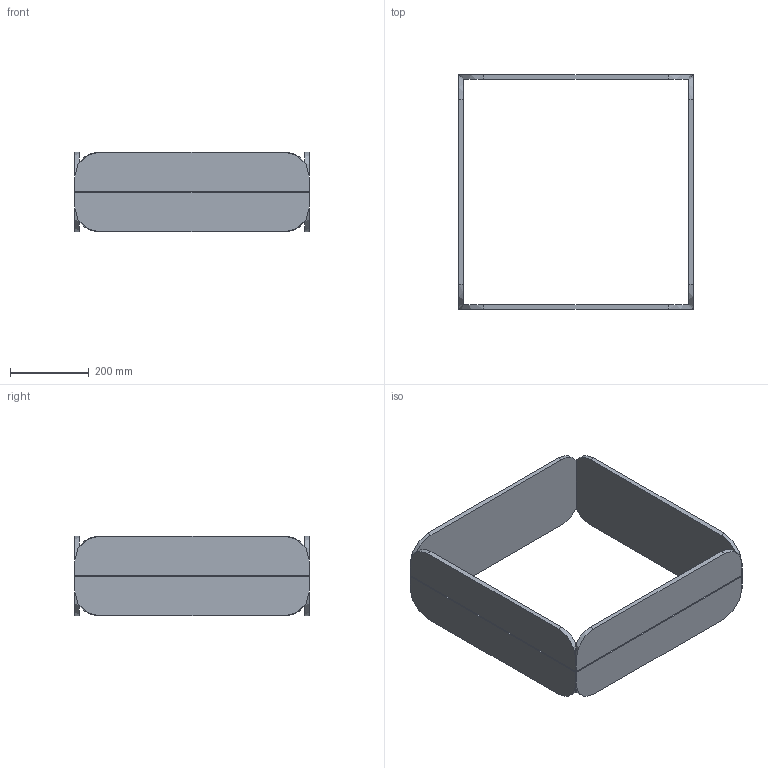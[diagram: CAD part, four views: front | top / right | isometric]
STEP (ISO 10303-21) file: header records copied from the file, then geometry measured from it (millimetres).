
FILE_DESCRIPTION(/* description */ (''),/* implementation_level */ '2;1');
FILE_NAME(/* name */ 'Profile_7',/* time_stamp */ '2026-07-07T12:56:22-05:00',/* author */ (''),/* organization */ (''),/* preprocessor_version */ 'ST-DEVELOPER v19.2',/* originating_system */ 'Rhino 8.32',/* authorisation */ '');
FILE_SCHEMA (('CONFIG_CONTROL_DESIGN'));
Length unit declared in the file: inch
Products named in the file (1): Document
Bounding box: 596.9 x 596.9 x 203.2 mm (x, y, z)
Volume: 5546432.5 mm3; surface area: 1032977.5 mm2
Topology: 4 solids, 4 shells, 56 faces, 150 edges, 100 vertices
Faces by surface type: plane 40, cylinder 16
Entity records: 1981 total; most frequent: CARTESIAN_POINT 725, ORIENTED_EDGE 288, EDGE_CURVE 144, DIRECTION 134, B_SPLINE_CURVE_WITH_KNOTS 104, VERTEX_POINT 96, AXIS2_PLACEMENT_3D 93, ADVANCED_FACE 56
